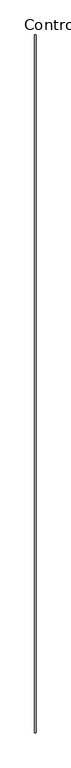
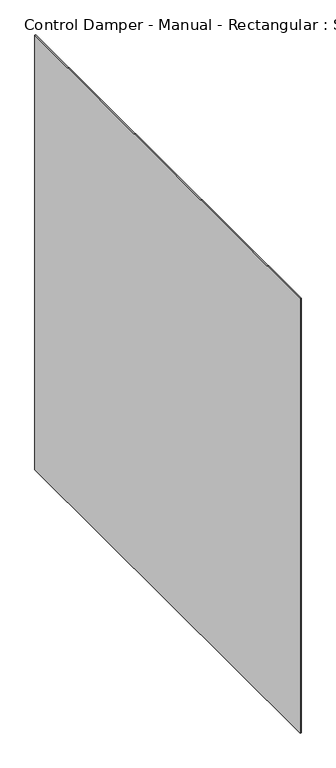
"""IFC4 building model written with IfcOpenShell, lengths in millimetres: damper geometry, Control Damper - Manual - Rectangular : Standard."""

from ifc_helpers import new_model, si_unit, frame, origin, place, context, project, spatial, polyline, outline, extrude, source, transform, mapped, element, save


def control_damper_manual_rectangular_standard_50b392a3(model_context):
    return source(origin(), model_context, "Body", "SweptSolid", [
        extrude(outline(polyline([(1.2898438, 609.6), (1.2898438, -609.6), (-1.2898438, -609.6), (-1.2898438, 609.6), (1.2898438, 609.6)])), frame((0.0, 0.0, -609.6), z_axis=(0.0, 0.0, 1.0), x_axis=(1.0, 0.0, 0.0)), (0.0, 0.0, 1.0), 1219.2),
    ])


if __name__ == "__main__":
    model = new_model("IFC4")
    model_context = context("Model", 3, world=origin())
    ifc_project = project(units=[si_unit("LENGTHUNIT", "METRE", prefix="MILLI")], contexts=[model_context])
    site = spatial("IfcSite", under=ifc_project)
    building = spatial("IfcBuilding", under=site)
    placement = place(None, origin())
    control_damper_manual_rectangular_standard_shape = control_damper_manual_rectangular_standard_50b392a3(model_context)
    element("IfcDamper", 1, ObjectType="Control Damper - Manual - Rectangular : Standard", at=placement, inside=building, context=model_context, shape_type="MappedRepresentation", body=[
        mapped(control_damper_manual_rectangular_standard_shape, transform((0.0, 0.0, 0.0), x_axis=(1.0, 0.0, 0.0), y_axis=(0.0, 1.0, 0.0), z_axis=(0.0, 0.0, 1.0))),
    ])
    save(model, "model.ifc")
